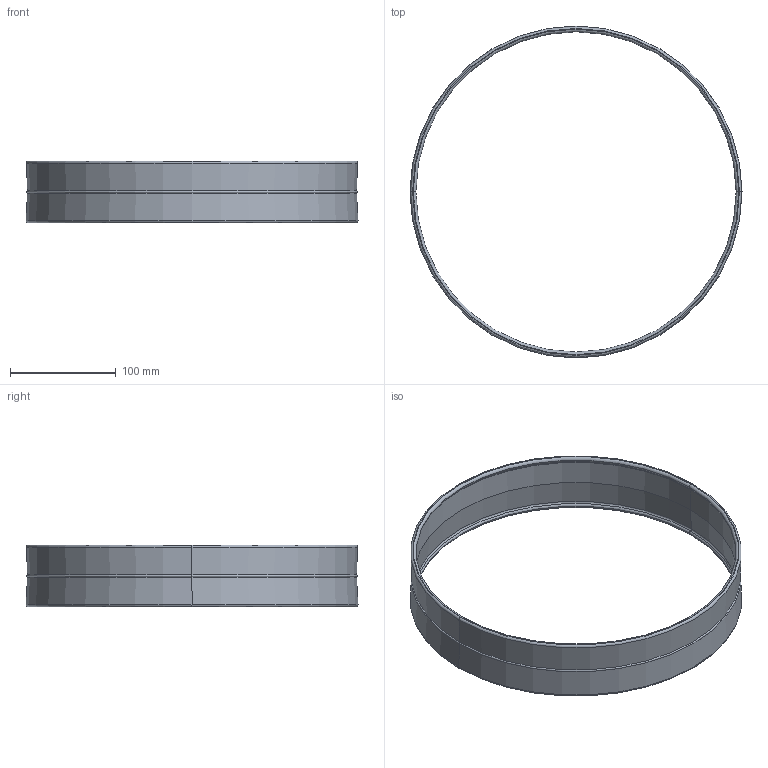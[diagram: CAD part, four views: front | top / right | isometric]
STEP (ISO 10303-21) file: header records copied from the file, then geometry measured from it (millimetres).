
FILE_DESCRIPTION (( 'STEP AP214' ), '1' );
FILE_NAME ('1038 Schutzring.STEP', '2025-03-26T14:10:56', ( '' ), ( '' ), 'SwSTEP 2.0', 'SolidWorks 2022', '' );
FILE_SCHEMA (( 'AUTOMOTIVE_DESIGN' ));
Length unit declared in the file: millimetre
Products named in the file (1): 1038 Schutzring
Bounding box: 313.74 x 313.74 x 58.55 mm (x, y, z)
Volume: 162159.5 mm3; surface area: 122882.2 mm2
Topology: 1 solids, 1 shells, 28 faces, 56 edges, 30 vertices
Faces by surface type: torus 18, cone 8, plane 2
Entity records: 1078 total; most frequent: DIRECTION 162, CARTESIAN_POINT 115, ORIENTED_EDGE 112, AXIS2_PLACEMENT_3D 77, EDGE_CURVE 56, CIRCLE 48, UNCERTAINTY_MEASURE_WITH_UNIT 31, MECHANICAL_DESIGN_GEOMETRIC_PRESENTATION_REPRESENTATION 30
